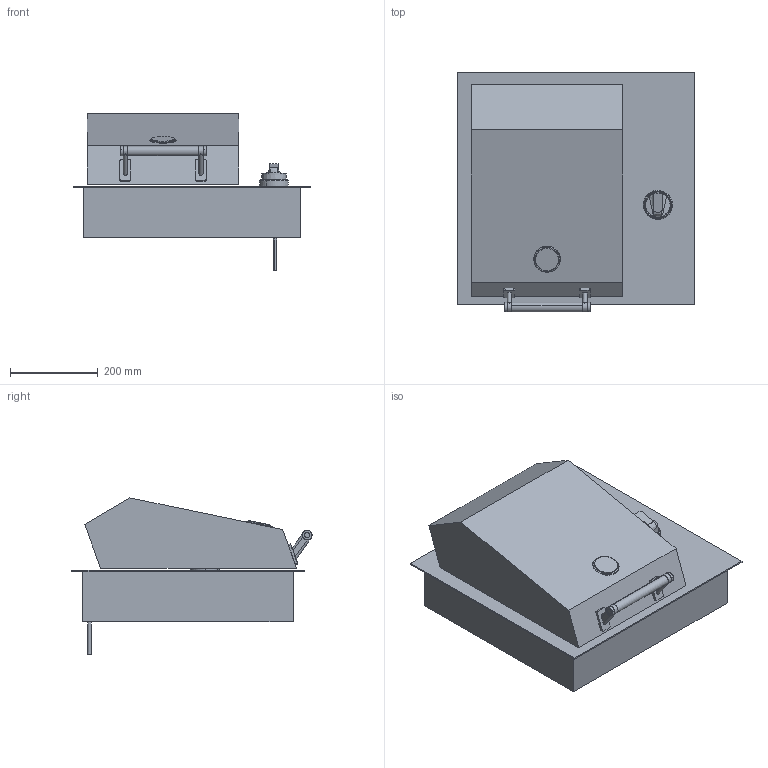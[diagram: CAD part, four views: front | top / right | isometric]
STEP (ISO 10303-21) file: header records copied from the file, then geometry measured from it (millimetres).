
FILE_DESCRIPTION(/* description */ ('Unknown'),/* implementation_level */ '2;1');
FILE_NAME(/* name */ 'BBQE60X',/* time_stamp */ '2025-07-17T11:36:45+02:00',/* author */ ('Unknown'),/* organization */ ('Unknown'),/* preprocessor_version */ 'ST-DEVELOPER v16.7',/* originating_system */ 'DEX',/* authorisation */ $);
FILE_SCHEMA (('AUTOMOTIVE_DESIGN {1 0 10303 214 3 1 1}'));
Length unit declared in the file: millimetre
Products named in the file (1): BBQE60X
Bounding box: 542 x 548.01 x 356.85 mm (x, y, z)
Volume: 48099061.1 mm3; surface area: 1850680.6 mm2
Topology: 14 solids, 14 shells, 119 faces, 261 edges, 177 vertices
Faces by surface type: plane 62, bspline 27, cylinder 26, cone 4
Full cylindrical faces by diameter (mm): 11.999 x2, 60.434 x1
Entity records: 5392 total; most frequent: CARTESIAN_POINT 2742, ORIENTED_EDGE 502, DIRECTION 411, EDGE_CURVE 251, VERTEX_POINT 173, AXIS2_PLACEMENT_3D 162, EDGE_LOOP 134, FACE_BOUND 134
